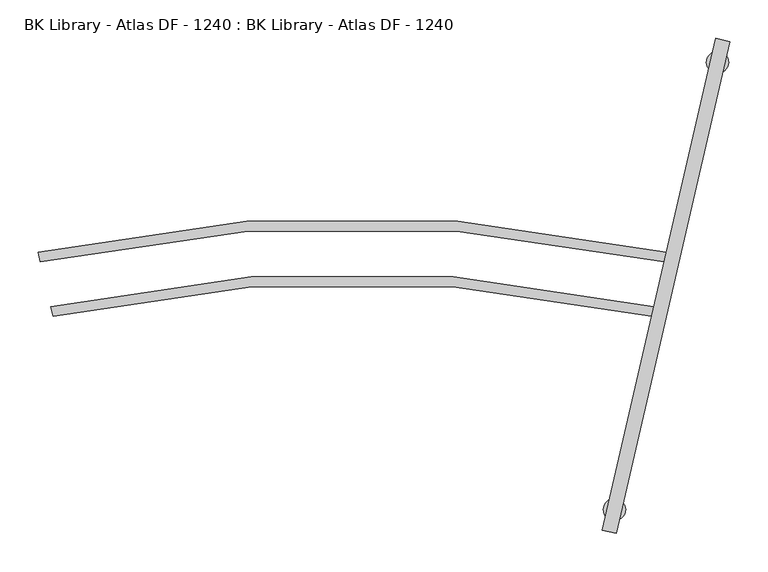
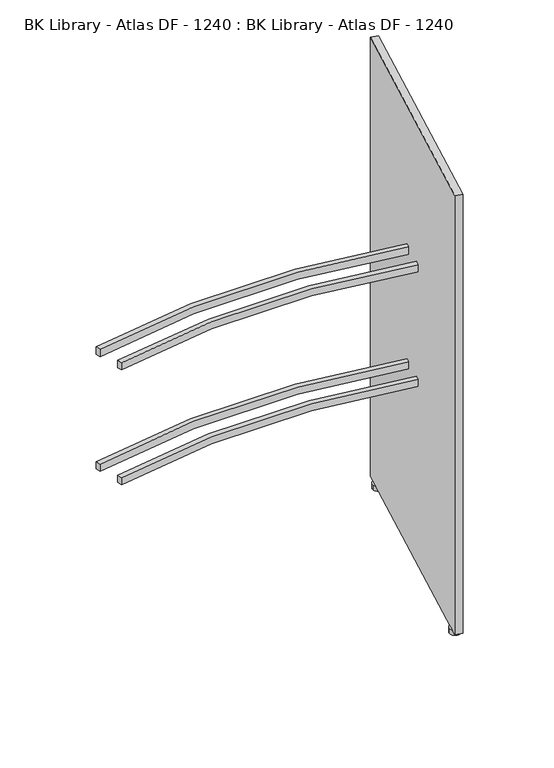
"""IFC4 building model written with IfcOpenShell, lengths in millimetres: furniture geometry, BK Library - Atlas DF - 1240 : BK Library - Atlas DF - 1240."""

from ifc_helpers import new_model, si_unit, point, frame, frame_2d, origin, origin_with_axes, place, context, project, spatial, polyline, circle_curve, trimmed, segment, composite_curve, outline, extrude, source, transform, mapped, element, save


def bk_library_atlas_df_1240_bk_library_atlas_df_1240_5238fd98(model_context):
    return source(origin(), model_context, "Body", "SweptSolid", [
        extrude(outline(composite_curve([segment(trimmed(circle_curve(frame_2d((0.0, -1785.1487517)), 1799.627579), [point((-394.2058088, -29.2269986))], [point((394.2058088, -29.2269986))], False, "CARTESIAN"), True, "CONTINUOUS"), segment(polyline([(394.2058088, -29.2269986), (391.2848087, -41.8943694)]), True, "CONTINUOUS"), segment(trimmed(circle_curve(frame_2d((0.0, -1790.5831955)), 1791.9309172), [point((391.2848087, -41.8943694))], [point((-391.2848087, -41.8943694))], True, "CARTESIAN"), True, "CONTINUOUS"), segment(polyline([(-391.2848087, -41.8943694), (-394.2058088, -29.2269986)]), True, "CONTINUOUS")], self_intersect=False)), frame((0.0, 0.0, 513.6999998), z_axis=(0.0, 0.0, 1.0), x_axis=(1.0, 0.0, 0.0)), (0.0, 0.0, 1.0), 20.0),
        extrude(outline(composite_curve([segment(trimmed(circle_curve(frame_2d((0.0, -1776.6858327)), 1864.3585062), [point((-410.605951, 41.8947656))], [point((410.605951, 41.8947656))], False, "CARTESIAN"), True, "CONTINUOUS"), segment(polyline([(410.605951, 41.8947656), (407.6853202, 29.2289965)]), True, "CONTINUOUS"), segment(trimmed(circle_curve(frame_2d((0.0, -1798.2835703)), 1872.4341116), [point((407.6853202, 29.2289965))], [point((-407.6853202, 29.2289965))], True, "CARTESIAN"), True, "CONTINUOUS"), segment(polyline([(-407.6853202, 29.2289965), (-410.605951, 41.8947656)]), True, "CONTINUOUS")], self_intersect=False)), frame((0.0, 0.0, 513.6999998), z_axis=(0.0, 0.0, 1.0), x_axis=(1.0, 0.0, 0.0)), (0.0, 0.0, 1.0), 20.0),
        extrude(outline(composite_curve([segment(trimmed(circle_curve(frame_2d((0.0, -1785.1487517)), 1799.627579), [point((-394.2058088, -29.2269986))], [point((394.2058088, -29.2269986))], False, "CARTESIAN"), True, "CONTINUOUS"), segment(polyline([(394.2058088, -29.2269986), (391.2848087, -41.8943694)]), True, "CONTINUOUS"), segment(trimmed(circle_curve(frame_2d((0.0, -1790.5831955)), 1791.9309172), [point((391.2848087, -41.8943694))], [point((-391.2848087, -41.8943694))], True, "CARTESIAN"), True, "CONTINUOUS"), segment(polyline([(-391.2848087, -41.8943694), (-394.2058088, -29.2269986)]), True, "CONTINUOUS")], self_intersect=False)), frame((0.0, 0.0, 833.6999998), z_axis=(0.0, 0.0, 1.0), x_axis=(1.0, 0.0, 0.0)), (0.0, 0.0, 1.0), 20.0),
        extrude(outline(composite_curve([segment(trimmed(circle_curve(frame_2d((0.0, -1776.6858327)), 1864.3585062), [point((-410.605951, 41.8947656))], [point((410.605951, 41.8947656))], False, "CARTESIAN"), True, "CONTINUOUS"), segment(polyline([(410.605951, 41.8947656), (407.6853202, 29.2289965)]), True, "CONTINUOUS"), segment(trimmed(circle_curve(frame_2d((0.0, -1798.2835703)), 1872.4341116), [point((407.6853202, 29.2289965))], [point((-407.6853202, 29.2289965))], True, "CARTESIAN"), True, "CONTINUOUS"), segment(polyline([(-407.6853202, 29.2289965), (-410.605951, 41.8947656)]), True, "CONTINUOUS")], self_intersect=False)), frame((0.0, 0.0, 833.6999998), z_axis=(0.0, 0.0, 1.0), x_axis=(1.0, 0.0, 0.0)), (0.0, 0.0, 1.0), 20.0),
        extrude(outline(polyline([(475.095, 321.5615447), (493.6091495, 317.2923215), (345.3098178, -325.8307679), (326.7956683, -321.5615447), (475.095, 321.5615447)])), frame((0.0, 0.0, 13.6999998), z_axis=(0.0, 0.0, 1.0), x_axis=(1.0, 0.0, 0.0)), (0.0, 0.0, 1.0), 1224.0),
        extrude(outline(composite_curve([segment(trimmed(circle_curve(frame_2d((477.608406, 290.1883722)), 14.4994573), [point((492.1078633, 290.1883722))], [point((463.1089486, 290.1883722))], False, "CARTESIAN"), True, "CONTINUOUS"), segment(trimmed(circle_curve(frame_2d((477.608406, 290.1883722)), 14.4994573), [point((463.1089486, 290.1883722))], [point((492.1078633, 290.1883722))], False, "CARTESIAN"), True, "CONTINUOUS")], self_intersect=False)), origin_with_axes(), (0.0, 0.0, 1.0), 13.6999998),
        extrude(outline(composite_curve([segment(trimmed(circle_curve(frame_2d((342.7923392, -294.4590973)), 14.4994573), [point((357.2917965, -294.4590973))], [point((328.2928818, -294.4590973))], False, "CARTESIAN"), True, "CONTINUOUS"), segment(trimmed(circle_curve(frame_2d((342.7923392, -294.4590973)), 14.4994573), [point((328.2928818, -294.4590973))], [point((357.2917965, -294.4590973))], False, "CARTESIAN"), True, "CONTINUOUS")], self_intersect=False)), origin_with_axes(), (0.0, 0.0, 1.0), 13.6999998),
    ])


if __name__ == "__main__":
    model = new_model("IFC4")
    model_context = context("Model", 3, world=origin())
    ifc_project = project(units=[si_unit("LENGTHUNIT", "METRE", prefix="MILLI")], contexts=[model_context])
    site = spatial("IfcSite", under=ifc_project)
    building = spatial("IfcBuilding", under=site)
    placement = place(None, origin())
    bk_library_atlas_df_1240_bk_library_atlas_df_1240_shape = bk_library_atlas_df_1240_bk_library_atlas_df_1240_5238fd98(model_context)
    element("IfcFurniture", 1, ObjectType="BK Library - Atlas DF - 1240 : BK Library - Atlas DF - 1240", at=placement, inside=building, context=model_context, shape_type="MappedRepresentation", body=[
        mapped(bk_library_atlas_df_1240_bk_library_atlas_df_1240_shape, transform((0.0, 0.0, 0.0), x_axis=(1.0, 0.0, 0.0), y_axis=(0.0, 1.0, 0.0), z_axis=(0.0, 0.0, 1.0))),
    ])
    save(model, "model.ifc")
